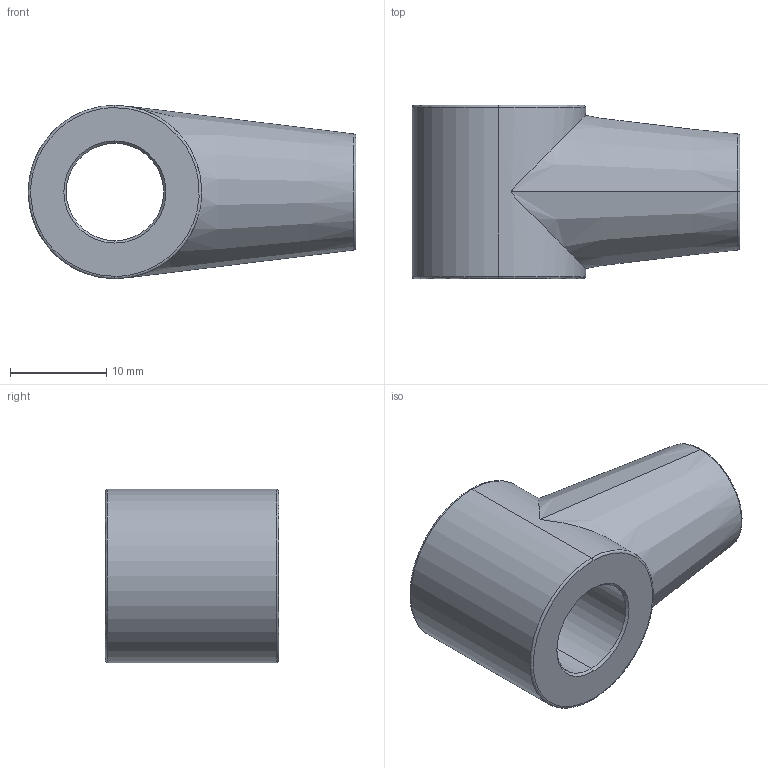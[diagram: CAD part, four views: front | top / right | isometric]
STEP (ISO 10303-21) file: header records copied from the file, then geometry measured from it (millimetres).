
FILE_DESCRIPTION (( 'STEP AP214' ), '1' );
FILE_NAME ('18.08A1HAMER.STEP', '2017-11-09T09:40:44', ( '' ), ( '' ), 'SwSTEP 2.0', 'SolidWorks 2016', '' );
FILE_SCHEMA (( 'AUTOMOTIVE_DESIGN' ));
Length unit declared in the file: millimetre
Products named in the file (1): 18.08A1HAMER
Bounding box: 34 x 18 x 18 mm (x, y, z)
Volume: 5259 mm3; surface area: 2933.2 mm2
Topology: 1 solids, 1 shells, 25 faces, 52 edges, 29 vertices
Faces by surface type: cone 10, bspline 6, cylinder 6, plane 3
Entity records: 872 total; most frequent: CARTESIAN_POINT 339, DIRECTION 108, ORIENTED_EDGE 100, EDGE_CURVE 50, AXIS2_PLACEMENT_3D 46, EDGE_LOOP 29, VERTEX_POINT 29, CIRCLE 26
